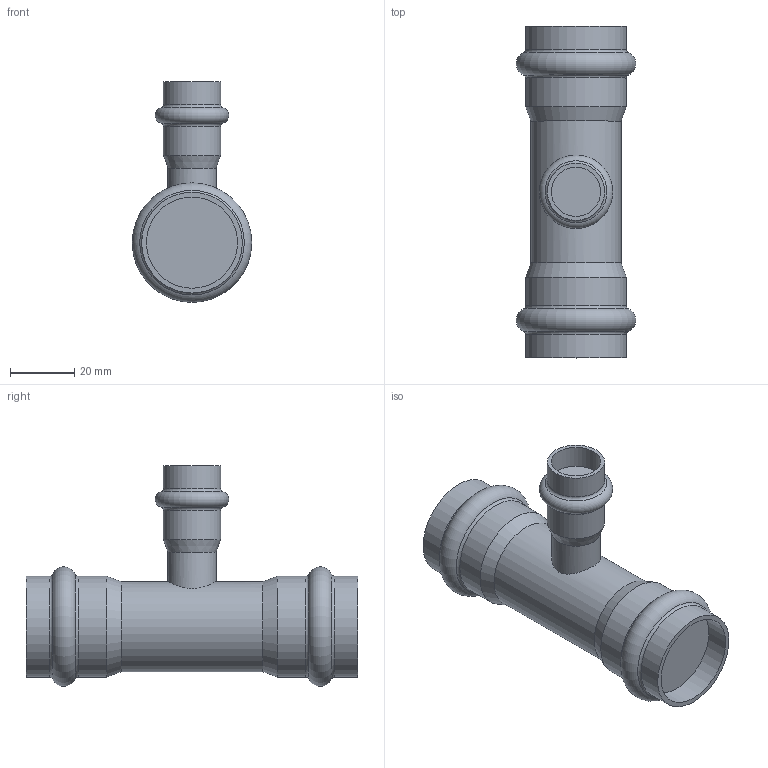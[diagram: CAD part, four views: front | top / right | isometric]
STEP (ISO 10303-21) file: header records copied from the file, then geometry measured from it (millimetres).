
FILE_DESCRIPTION(('STEP AP203'), '1');
FILE_NAME('VTi.931.I.281528', '', ('UNSPECIFIED'), ('UNSPECIFIED'), 'C3D Converter', 'C3D Toolkit', '');
FILE_SCHEMA(('CONFIG_CONTROL_DESIGN'));
Length unit declared in the file: millimetre
Bounding box: 37.1 x 103 x 68.55 mm (x, y, z)
Volume: 73516.6 mm3; surface area: 15804.1 mm2
Topology: 1 solids, 1 shells, 29 faces, 53 edges, 29 vertices
Faces by surface type: cylinder 11, torus 9, plane 6, cone 3
Full cylindrical faces by diameter (mm): 15 x1, 15.3 x1, 17.8 x2, 28 x1, 28.3 x2, 31.26 x4
Entity records: 816 total; most frequent: CARTESIAN_POINT 286, DIRECTION 114, ORIENTED_EDGE 58, AXIS2_PLACEMENT_3D 57, EDGE_LOOP 56, FACE_OUTER_BOUND 45, ADVANCED_FACE 29, EDGE_CURVE 29
